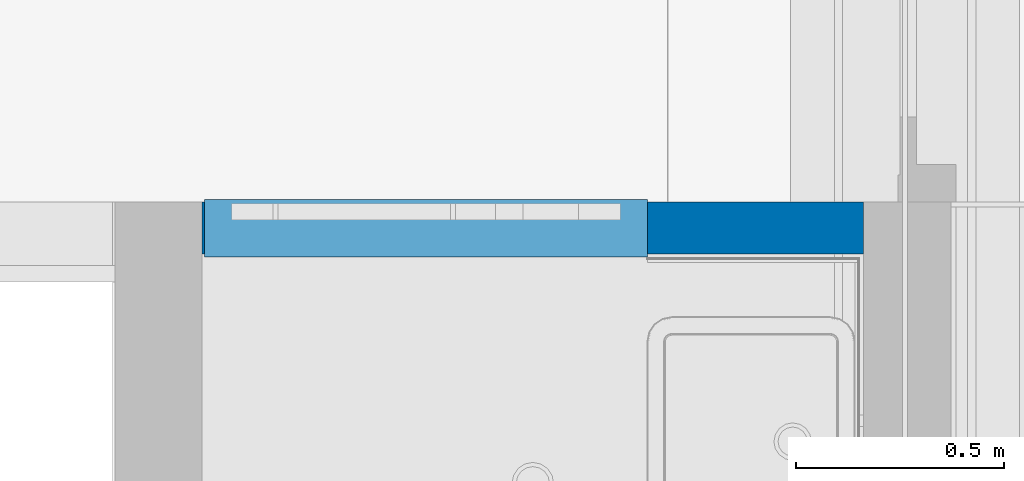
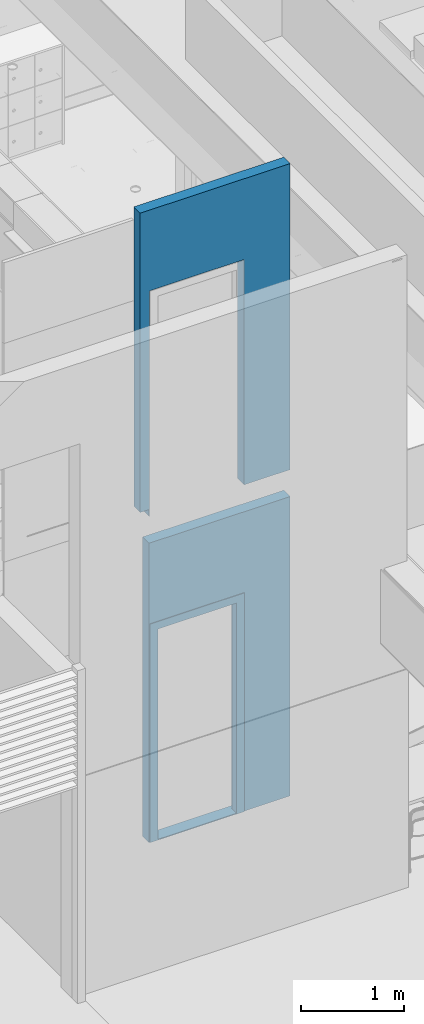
# One storey, part 61 of 347: 1 building element part, 1 wall, 2 openings, 1 element without a shape of its own.
"""IFC2X3 building model written with IfcOpenShell, lengths in millimetres."""

import ifcopenshell
import ifcopenshell.guid

model = None  # the IFC model being written
_history = None  # IfcOwnerHistory: only IFC2X3 demands one
_inside = {}  # id of a spatial element -> (the spatial element, [elements in it])
_under = {}  # id of a project, library or spatial element -> (it, [spatial elements below it])
_declared = {}  # id of a project -> (the project, [libraries it declares])
_typed = {}  # id of a type object -> (the type object, [elements of that type])
_made_of = {}  # id of a material, layer set ... -> (it, [elements and type objects made of it])


def new_model(schema):
    """Start an empty IFC model of exactly this schema.

    Asked for "IFC4X3", IfcOpenShell would pick the latest addendum, in which some entities
    have other attributes; the version numbers below select the first issue.
    IFC2X3 requires an IfcOwnerHistory on every rooted entity: one is made here for all.
    """
    global model, _history
    if schema == "IFC4X3":
        model = ifcopenshell.file(schema_version=(4, 3, 0, 0))
    else:
        model = ifcopenshell.file(schema=schema)
    _inside.clear()
    _under.clear()
    _declared.clear()
    _typed.clear()
    _made_of.clear()
    _history = None
    if model.schema == "IFC2X3":
        org = make("IfcOrganization", Name="unknown")
        user = make(
            "IfcPersonAndOrganization",
            ThePerson=make("IfcPerson", FamilyName="unknown"),
            TheOrganization=org,
        )
        app = make(
            "IfcApplication",
            ApplicationDeveloper=org,
            Version="unknown",
            ApplicationFullName="unknown",
            ApplicationIdentifier="unknown",
        )
        _history = make(
            "IfcOwnerHistory",
            OwningUser=user,
            OwningApplication=app,
            ChangeAction="ADDED",
            CreationDate=0,
        )
    return model


def make(cls, **values):
    """One entity of the class cls with the attributes given. An attribute that is None is left unset."""
    return model.create_entity(
        cls, **{name: value for name, value in values.items() if value is not None}
    )


def entity(cls, *values):
    """Any entity or typed value of the class cls, its attributes in the order of the schema. None: left unset."""
    e = model.create_entity(cls)
    for i, value in enumerate(values):
        if value is not None:
            e[i] = value
    return e


def rooted(cls, **values):
    """An entity with a GlobalId (a new one), such as an element, a storey or a relation."""
    return make(cls, GlobalId=ifcopenshell.guid.new(), OwnerHistory=_history, **values)


def si_unit(unit_type, name, prefix=None):
    """IfcSIUnit, for example si_unit("LENGTHUNIT", "METRE", prefix="MILLI")."""
    return make("IfcSIUnit", UnitType=unit_type, Prefix=prefix, Name=name)


def converted_unit(unit_type, name, factor, base, dimensions=None, offset=None):
    """IfcConversionBasedUnit, such as the inch: factor (a typed value) times the base unit."""
    return make(
        "IfcConversionBasedUnit"
        if offset is None
        else "IfcConversionBasedUnitWithOffset",
        ConversionOffset=offset,
        Dimensions=None
        if dimensions is None
        else entity("IfcDimensionalExponents", *dimensions),
        UnitType=unit_type,
        Name=name,
        ConversionFactor=make(
            "IfcMeasureWithUnit", ValueComponent=factor, UnitComponent=base
        ),
    )


def derived_unit(unit_type, elements):
    """IfcDerivedUnit: a product of units, each with its exponent."""
    return make(
        "IfcDerivedUnit",
        Elements=[
            make("IfcDerivedUnitElement", Unit=unit, Exponent=power)
            for unit, power in elements
        ],
        UnitType=unit_type,
    )


def money_unit(currency):
    """IfcMonetaryUnit."""
    return make("IfcMonetaryUnit", Currency=currency)


def assignment(units):
    """IfcUnitAssignment: the units of a project."""
    return None if units is None else make("IfcUnitAssignment", Units=units)


def point(xyz):
    """IfcCartesianPoint."""
    return None if xyz is None else make("IfcCartesianPoint", Coordinates=xyz)


def direction(xyz):
    """IfcDirection."""
    return None if xyz is None else make("IfcDirection", DirectionRatios=xyz)


def frame(location, z_axis=None, x_axis=None):
    """IfcAxis2Placement3D, a coordinate frame: its origin and axes. An axis left out is left unset."""
    return make(
        "IfcAxis2Placement3D",
        Location=point(location),
        Axis=direction(z_axis),
        RefDirection=direction(x_axis),
    )


def origin_with_axes():
    """The frame at (0, 0, 0) with the z axis (0, 0, 1) and the x axis (1, 0, 0) written out."""
    return frame((0.0, 0.0, 0.0), z_axis=(0.0, 0.0, 1.0), x_axis=(1.0, 0.0, 0.0))


def place(relative_to, where):
    """IfcLocalPlacement: puts the frame where relative to a parent placement (None: the world)."""
    return make(
        "IfcLocalPlacement", PlacementRelTo=relative_to, RelativePlacement=where
    )


def context(
    kind, dimensions, precision=None, world=None, true_north=None, identifier=None
):
    """IfcGeometricRepresentationContext, for example the 3D "Model" context."""
    return make(
        "IfcGeometricRepresentationContext",
        ContextIdentifier=identifier,
        ContextType=kind,
        CoordinateSpaceDimension=dimensions,
        Precision=precision,
        WorldCoordinateSystem=world,
        TrueNorth=true_north,
    )


def subcontext(parent, identifier, kind, view, scale=None):
    """IfcGeometricRepresentationSubContext, for example "Body" below "Model"."""
    return make(
        "IfcGeometricRepresentationSubContext",
        ContextIdentifier=identifier,
        ContextType=kind,
        ParentContext=parent,
        TargetScale=scale,
        TargetView=view,
    )


def project(units=None, contexts=None):
    """IfcProject with its units and contexts."""
    return rooted(
        "IfcProject",
        Name="project",
        RepresentationContexts=contexts,
        UnitsInContext=assignment(units),
    )


def spatial(cls, under=None, at=None, **own):
    """A site, building, storey or space (cls), placed at a placement, below another one or the project."""
    s = rooted(cls, ObjectPlacement=at, **own)
    if under is not None:
        _under.setdefault(under.id(), (under, []))[1].append(s)
    return s


def faces_of(points, faces, orient=None, outer=None):
    """IfcFace entities. A face is a list of loops; a loop is a list of indices into points, from 0.

    orient and outer hold one flag for each loop. By default every Orientation is true, the
    first loop of a face is its IfcFaceOuterBound and the others are IfcFaceBound.
    """
    made = []
    for i, loops in enumerate(faces):
        bounds = []
        for j, loop in enumerate(loops):
            is_outer = j == 0 if outer is None else outer[i][j]
            bounds.append(
                make(
                    "IfcFaceOuterBound" if is_outer else "IfcFaceBound",
                    Bound=make("IfcPolyLoop", Polygon=[points[k] for k in loop]),
                    Orientation=True if orient is None else orient[i][j],
                )
            )
        made.append(make("IfcFace", Bounds=bounds))
    return made


def faceted_brep(points, faces, orient=None, outer=None, voids=None):
    """IfcFacetedBrep: a solid bounded by flat faces; with voids (closed shells), ...WithVoids."""
    shared = [point(p) for p in points]
    hull = make("IfcClosedShell", CfsFaces=faces_of(shared, faces, orient, outer))
    if voids is None:
        return make("IfcFacetedBrep", Outer=hull)
    return make(
        "IfcFacetedBrepWithVoids",
        Outer=hull,
        Voids=[
            make(cls, CfsFaces=faces_of(shared, fs, o, b)) for cls, fs, o, b in voids
        ],
    )


def shape(context_of_items, identifier, shape_type, items):
    """IfcShapeRepresentation: the items that make up one representation, for example the "Body"."""
    return make(
        "IfcShapeRepresentation",
        ContextOfItems=context_of_items,
        RepresentationIdentifier=identifier,
        RepresentationType=shape_type,
        Items=items,
    )


def source(mapping_origin, context_of_items, identifier, shape_type, items):
    """IfcRepresentationMap: a shape defined once, which mapped items show again and again."""
    return make(
        "IfcRepresentationMap",
        MappingOrigin=mapping_origin,
        MappedRepresentation=shape(context_of_items, identifier, shape_type, items),
    )


def transform(
    local_origin,
    x_axis=None,
    y_axis=None,
    z_axis=None,
    scale=None,
    scale2=None,
    scale3=None,
    uniform=True,
):
    """IfcCartesianTransformationOperator3D, or its non-uniform kind. x_axis, y_axis, z_axis: its Axis1, 2, 3."""
    if uniform:
        return make(
            "IfcCartesianTransformationOperator3D",
            Axis1=direction(x_axis),
            Axis2=direction(y_axis),
            LocalOrigin=point(local_origin),
            Scale=scale,
            Axis3=direction(z_axis),
        )
    return make(
        "IfcCartesianTransformationOperator3DnonUniform",
        Axis1=direction(x_axis),
        Axis2=direction(y_axis),
        LocalOrigin=point(local_origin),
        Scale=scale,
        Axis3=direction(z_axis),
        Scale2=scale2,
        Scale3=scale3,
    )


def mapped(mapping_source, mapping_target):
    """IfcMappedItem: shows the shape of a source again, moved by a transform."""
    return make(
        "IfcMappedItem", MappingSource=mapping_source, MappingTarget=mapping_target
    )


def material(Name=None, Category=None):
    """IfcMaterial."""
    return make("IfcMaterial", Name=Name, Category=Category)


def made_of(thing, what):
    """Note that an element or type object is made of a material, layer set ...; save() writes the relation."""
    if what is not None:
        _made_of.setdefault(what.id(), (what, []))[1].append(thing)
    return thing


def type_object(cls, material=None, **own):
    """A type object (cls), such as IfcWallType, which elements share."""
    return made_of(rooted(cls, **own), material)


def element(
    cls,
    number,
    at=None,
    inside=None,
    cuts=None,
    type_object=None,
    material=None,
    context=None,
    identifier="Body",
    shape_type=None,
    held_by="IfcProductDefinitionShape",
    body=None,
    shapes=None,
    **own,
):
    """One element of the class cls, such as IfcWall. Its Tag is "e" and its number.

    at: its placement. inside: the storey or other place that contains it. cuts: it is an
    opening in that element (IfcRelVoidsElement). A single representation is given by context,
    identifier, shape_type and body (its items); several are given by shapes. held_by: the class
    of the entity that holds the representations. save() writes the other relations.
    """
    e = rooted(cls, Tag="e%d" % number, ObjectPlacement=at, **own)
    if body is not None:
        shapes = [shape(context, identifier, shape_type, body)]
    if shapes is not None:
        e.Representation = make(held_by, Representations=shapes)
    if inside is not None:
        _inside.setdefault(inside.id(), (inside, []))[1].append(e)
    if cuts is not None:
        rooted(
            "IfcRelVoidsElement", RelatingBuildingElement=cuts, RelatedOpeningElement=e
        )
    if type_object is not None:
        _typed.setdefault(type_object.id(), (type_object, []))[1].append(e)
    return made_of(e, material)


def fill(opening, filler):
    """IfcRelFillsElement: the door or window that sits in an opening."""
    return rooted(
        "IfcRelFillsElement",
        RelatingOpeningElement=opening,
        RelatedBuildingElement=filler,
    )


def aggregate(whole, parts):
    """IfcRelAggregates: a whole, such as a stair, and the parts it consists of."""
    return rooted("IfcRelAggregates", RelatingObject=whole, RelatedObjects=parts)


def save(model, path):
    """Write the relations noted so far, then the file.

    IfcRelAggregates (storeys below a building ...), IfcRelContainedInSpatialStructure (elements
    in a storey), IfcRelDefinesByType, IfcRelAssociatesMaterial and IfcRelDeclares: one each for
    every whole, place, type object, material and project.
    """
    for whole, parts in _under.values():
        aggregate(whole, parts)
    for where, things in _inside.values():
        rooted(
            "IfcRelContainedInSpatialStructure",
            RelatedElements=things,
            RelatingStructure=where,
        )
    for kind, things in _typed.values():
        rooted("IfcRelDefinesByType", RelatedObjects=things, RelatingType=kind)
    for what, things in _made_of.values():
        rooted("IfcRelAssociatesMaterial", RelatedObjects=things, RelatingMaterial=what)
    for by, libraries in _declared.values():
        rooted("IfcRelDeclares", RelatingContext=by, RelatedDefinitions=libraries)
    model.write(path)


model = new_model("IFC2X3")

# Units and contexts
model_context = context("Model", 3, precision=0.01, world=origin_with_axes(), true_north=direction((0.0, 1.0)))
plan_context = context("Plan", 3, precision=0.01, world=origin_with_axes(), true_north=direction((0.0, 1.0)))
body_context = subcontext(model_context, "Body", "Model", "MODEL_VIEW")
ifc_project = project(units=[si_unit("LENGTHUNIT", "METRE", prefix="MILLI"), si_unit("AREAUNIT", "SQUARE_METRE"), si_unit("VOLUMEUNIT", "CUBIC_METRE"), converted_unit("PLANEANGLEUNIT", "DEGREE", entity("IfcPlaneAngleMeasure", 0.0174532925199), si_unit("PLANEANGLEUNIT", "RADIAN"), dimensions=[0, 0, 0, 0, 0, 0, 0]), money_unit("EUR"), converted_unit("TIMEUNIT", "Year", entity("IfcTimeMeasure", 31556926.0), si_unit("TIMEUNIT", "SECOND"), dimensions=[0, 0, 1, 0, 0, 0, 0]), si_unit("MASSUNIT", "GRAM", prefix="KILO"), si_unit("THERMODYNAMICTEMPERATUREUNIT", "DEGREE_CELSIUS"), si_unit("LUMINOUSINTENSITYUNIT", "LUMEN"), si_unit("ENERGYUNIT", "JOULE", prefix="MEGA"), derived_unit("THERMALCONDUCTANCEUNIT", [(si_unit("POWERUNIT", "WATT"), 1), (si_unit("LENGTHUNIT", "METRE"), -1), (si_unit("THERMODYNAMICTEMPERATUREUNIT", "KELVIN"), -1)]), derived_unit("SPECIFICHEATCAPACITYUNIT", [(si_unit("ENERGYUNIT", "JOULE"), 1), (si_unit("MASSUNIT", "GRAM", prefix="KILO"), -1), (si_unit("THERMODYNAMICTEMPERATUREUNIT", "KELVIN"), -1)]), derived_unit("MASSDENSITYUNIT", [(si_unit("MASSUNIT", "GRAM", prefix="KILO"), 1), (si_unit("VOLUMEUNIT", "CUBIC_METRE"), -1)])], contexts=[model_context, plan_context])

# Site, building, storey
site_placement = place(None, origin_with_axes())
site = spatial("IfcSite", under=ifc_project, at=site_placement, Name="Site", CompositionType="ELEMENT")
building_placement = place(site_placement, origin_with_axes())
building = spatial("IfcBuilding", under=site, at=building_placement, Name="Naam gebouw", CompositionType="ELEMENT")
storey_placement = place(building_placement, origin_with_axes())
storey = spatial("IfcBuildingStorey", under=building, at=storey_placement, Name="begane grond", CompositionType="ELEMENT", Elevation=0.0)

# Wall, openings, door, building element part
ifc_material = material(Name="ALG - LICHTE SCHEIDINGSWAND")
wall_type = type_object("IfcWallType", Name="ALG LSW 125 125", PredefinedType="NOTDEFINED")
wall_placement = place(storey_placement, frame((42857.0, 27975.0, 0.0), z_axis=(0.0, 0.0, 1.0), x_axis=(1.0, 0.0, 0.0)))
wall = element("IfcWall", 1, at=wall_placement, inside=storey, type_object=wall_type, material=ifc_material, Name="22_GF 125 ECO DGS/2.75.2A", context=body_context, shape_type="Brep", body=[
    faceted_brep([(5.0, 0.0, 2600.0), (5.0, 0.0, 0.0), (0.0, 0.0, 0.0), (0.0, 0.0, 3560.0), (1588.0, 0.0, 3560.0), (1588.0, 0.0, 0.0), (1069.0, 0.0, 0.0), (1069.0, 0.0, 2600.0), (5.0, -125.0, 2600.0), (5.0, -125.0, 0.0), (0.0, -125.0, 0.0), (0.0, -125.0, 3560.0), (1588.0, -125.0, 3560.0), (1588.0, -125.0, 0.0), (1069.0, -125.0, 0.0), (1069.0, -125.0, 2600.0)], [[[0, 1, 2, 3, 4, 5, 6, 7]], [[1, 0, 8, 9]], [[1, 9, 10, 2]], [[11, 3, 2, 10]], [[12, 4, 3, 11]], [[4, 12, 13, 5]], [[14, 6, 5, 13]], [[7, 6, 14, 15]], [[0, 7, 15, 8]], [[15, 14, 13, 12, 11, 10, 9, 8]]]),
    faceted_brep([(5.0, 0.0, 6560.0), (5.0, 0.0, 3960.0), (5.0, 0.0, 3880.0), (0.0, 0.0, 3880.0), (0.0, 0.0, 3960.0), (-100.0, 0.0, 3960.0), (-100.0, 0.0, 7520.0), (1588.0, 0.0, 7520.0), (1588.0, 0.0, 3880.0), (1069.0, 0.0, 3880.0), (1069.0, 0.0, 3960.0), (1069.0, 0.0, 6560.0), (5.0, -125.0, 6560.0), (5.0, -125.0, 3960.0), (5.0, -125.0, 3880.0), (0.0, -125.0, 3880.0), (0.0, -125.0, 3960.0), (-100.0, -125.0, 3960.0), (-100.0, -125.0, 7520.0), (1588.0, -125.0, 7520.0), (1588.0, -125.0, 3880.0), (1069.0, -125.0, 3880.0), (1069.0, -125.0, 3960.0), (1069.0, -125.0, 6560.0)], [[[0, 1, 2, 3, 4, 5, 6, 7, 8, 9, 10, 11]], [[1, 0, 12, 13]], [[1, 13, 14, 2]], [[2, 14, 15, 3]], [[3, 15, 16, 4]], [[16, 17, 5, 4]], [[17, 18, 6, 5]], [[7, 6, 18, 19]], [[20, 8, 7, 19]], [[21, 9, 8, 20]], [[22, 10, 9, 21]], [[11, 10, 22, 23]], [[0, 11, 23, 12]], [[23, 22, 21, 20, 19, 18, 17, 16, 15, 14, 13, 12]]]),
])
opening_1_placement = place(wall_placement, frame((537.0, 0.0, 0.0), z_axis=(0.0, 0.0, 1.0), x_axis=(1.0, 0.0, 0.0)))
opening_1 = element("IfcOpeningElement", 2, at=opening_1_placement, cuts=wall, Name="32_01.07", context=body_context, shape_type="Brep", body=[
    faceted_brep([(-532.0, 257.0, 2600.0), (-532.0, 257.0, 0.0), (-532.0, -125.0, 0.0), (-532.0, -125.0, 2600.0), (532.0, 257.0, 2600.0), (532.0, 257.0, 0.0), (532.0, -125.0, 0.0), (532.0, -125.0, 2600.0)], [[[0, 1, 2, 3]], [[0, 4, 5, 1]], [[1, 5, 6, 2]], [[3, 2, 6, 7]], [[4, 0, 3, 7]], [[5, 4, 7, 6]]]),
])
opening_2_placement = place(wall_placement, frame((537.0, 0.0, 3960.0), z_axis=(0.0, 0.0, 1.0), x_axis=(1.0, 0.0, 0.0)))
element("IfcOpeningElement", 3, at=opening_2_placement, cuts=wall, Name="32_01.07", context=body_context, shape_type="Brep", body=[
    faceted_brep([(-532.0, 257.0, 2600.0), (-532.0, 257.0, 0.0), (-532.0, -125.0, 0.0), (-532.0, -125.0, 2600.0), (532.0, 257.0, 2600.0), (532.0, 257.0, 0.0), (532.0, -125.0, 0.0), (532.0, -125.0, 2600.0)], [[[0, 1, 2, 3]], [[0, 4, 5, 1]], [[1, 5, 6, 2]], [[3, 2, 6, 7]], [[4, 0, 3, 7]], [[5, 4, 7, 6]]]),
])
door_style = type_object("IfcDoorStyle", Name="D1 25", ConstructionType="NOTDEFINED", OperationType="SINGLE_SWING_LEFT", ParameterTakesPrecedence=False, Sizeable=False)
door_placement = place(opening_1_placement, frame((-532.0, 0.0, 0.0), z_axis=(0.0, 0.0, 1.0), x_axis=(1.0, 0.0, 0.0)))
door = element("IfcDoor", 4, at=door_placement, inside=storey, type_object=door_style, Name="32_01.07", ObjectType="DOOR", OverallHeight=2600.0, OverallWidth=1064.0)
fill(opening_1, door)
shared_shape = source(origin_with_axes(), body_context, "Body", "Brep", [
    faceted_brep([(467.0, -40.0, 10.0), (467.0, 0.0, 10.0), (-467.0, 0.0, 10.0), (-467.0, -40.0, 10.0), (-442.0, -40.0, 10.0), (-442.0, -139.0, 10.0), (442.0, -139.0, 10.0), (442.0, -40.0, 10.0), (467.0, -40.0, 0.0), (467.0, 0.0, 0.0), (-467.0, 0.0, 0.0), (-467.0, -40.0, 0.0), (-442.0, -40.0, 0.0), (-442.0, -139.0, 0.0), (442.0, -139.0, 0.0), (442.0, -40.0, 0.0)], [[[0, 1, 2, 3, 4, 5, 6, 7]], [[8, 9, 1, 0]], [[9, 10, 2, 1]], [[11, 3, 2, 10]], [[3, 11, 12, 4]], [[5, 4, 12, 13]], [[6, 5, 13, 14]], [[14, 15, 7, 6]], [[7, 15, 8, 0]], [[15, 14, 13, 12, 11, 10, 9, 8]]]),
    faceted_brep([(442.0, -50.0, 0.0), (442.0, -139.0, 0.0), (442.0, -139.0, 2510.0), (442.0, -50.0, 2510.0), (467.0, -50.0, 0.0), (467.0, 0.0, 0.0), (532.0, 0.0, 0.0), (532.0, -139.0, 0.0), (532.0, -139.0, 2510.0), (467.0, -50.0, 2510.0), (532.0, 0.0, 2510.0), (467.0, 0.0, 2510.0)], [[[0, 1, 2, 3]], [[4, 5, 6, 7, 1, 0]], [[1, 7, 8, 2]], [[9, 3, 2, 8, 10, 11]], [[9, 4, 0, 3]], [[11, 5, 4, 9]], [[11, 10, 6, 5]], [[6, 10, 8, 7]]]),
    faceted_brep([(-467.0, -50.0, 2510.0), (-467.0, 0.0, 2510.0), (-532.0, 0.0, 2510.0), (-532.0, -139.0, 2510.0), (-442.0, -139.0, 2510.0), (-442.0, -50.0, 2510.0), (-467.0, -50.0, 0.0), (-467.0, 0.0, 0.0), (-532.0, 0.0, 0.0), (-532.0, -139.0, 0.0), (-442.0, -139.0, 0.0), (-442.0, -50.0, 0.0)], [[[0, 1, 2, 3, 4, 5]], [[0, 6, 7, 1]], [[7, 8, 2, 1]], [[2, 8, 9, 3]], [[3, 9, 10, 4]], [[5, 4, 10, 11]], [[5, 11, 6, 0]], [[6, 11, 10, 9, 8, 7]]]),
    faceted_brep([(467.0, 0.0, 2535.0), (-467.0, 0.0, 2535.0), (-467.0, 0.0, 2510.0), (-532.0, 0.0, 2510.0), (-532.0, 0.0, 2600.0), (532.0, 0.0, 2600.0), (532.0, 0.0, 2510.0), (467.0, 0.0, 2510.0), (467.0, -50.0, 2535.0), (-467.0, -50.0, 2535.0), (-467.0, -50.0, 2510.0), (-442.0, -50.0, 2510.0), (-442.0, -139.0, 2510.0), (-532.0, -139.0, 2510.0), (-532.0, -139.0, 2600.0), (532.0, -139.0, 2600.0), (532.0, -139.0, 2510.0), (467.0, -50.0, 2510.0), (442.0, -139.0, 2510.0), (442.0, -50.0, 2510.0)], [[[0, 1, 2, 3, 4, 5, 6, 7]], [[0, 8, 9, 1]], [[1, 9, 10, 2]], [[10, 11, 12, 13, 3, 2]], [[4, 3, 13, 14]], [[5, 4, 14, 15]], [[6, 5, 15, 16]], [[17, 7, 6, 16, 18, 19]], [[7, 17, 8, 0]], [[10, 9, 8, 17, 19, 11]], [[19, 18, 12, 11]], [[12, 18, 16, 15, 14, 13]]]),
])
building_element_part_placement = place(door_placement, origin_with_axes())
building_element_part = element("IfcBuildingElementPart", 5, at=building_element_part_placement, context=body_context, shape_type="MappedRepresentation", body=[
    mapped(shared_shape, transform((532.0, 7.0, 0.0))),
])
aggregate(door, [building_element_part])

save(model, "model.ifc")
